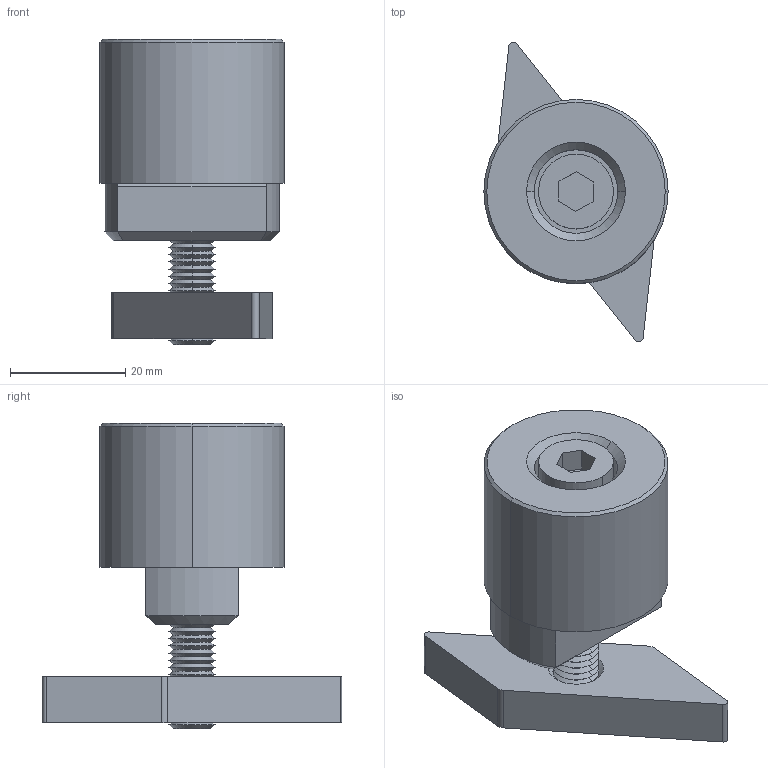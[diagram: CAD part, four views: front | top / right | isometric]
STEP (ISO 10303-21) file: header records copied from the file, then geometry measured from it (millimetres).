
FILE_DESCRIPTION (( 'STEP AP203' ), '1' );
FILE_NAME ('30200.W0116.step', '2017-06-30T11:02:56', ( 'User' ), ( '' ), 'SwSTEP 2.0', 'SolidWorks 2009', '' );
FILE_SCHEMA (( 'CONFIG_CONTROL_DESIGN' ));
Length unit declared in the file: millimetre
Products named in the file (4): 30200.W0116; Part1_30200.W0116; screw_M8x45; Wedge_30200.W0116
Assembly tree (3 placements, depth 2):
  30200.W0116
    screw_M8x45
    Part1_30200.W0116
    Wedge_30200.W0116
Bounding box: 32 x 52.01 x 53 mm (x, y, z)
Volume: 29354.5 mm3; surface area: 10330.5 mm2
Topology: 3 solids, 3 shells, 128 faces, 273 edges, 155 vertices
Faces by surface type: cone 75, plane 34, cylinder 19
Entity records: 3808 total; most frequent: DIRECTION 650, CARTESIAN_POINT 574, ORIENTED_EDGE 546, EDGE_CURVE 273, AXIS2_PLACEMENT_3D 247, VECTOR 156, LINE 156, VERTEX_POINT 155
